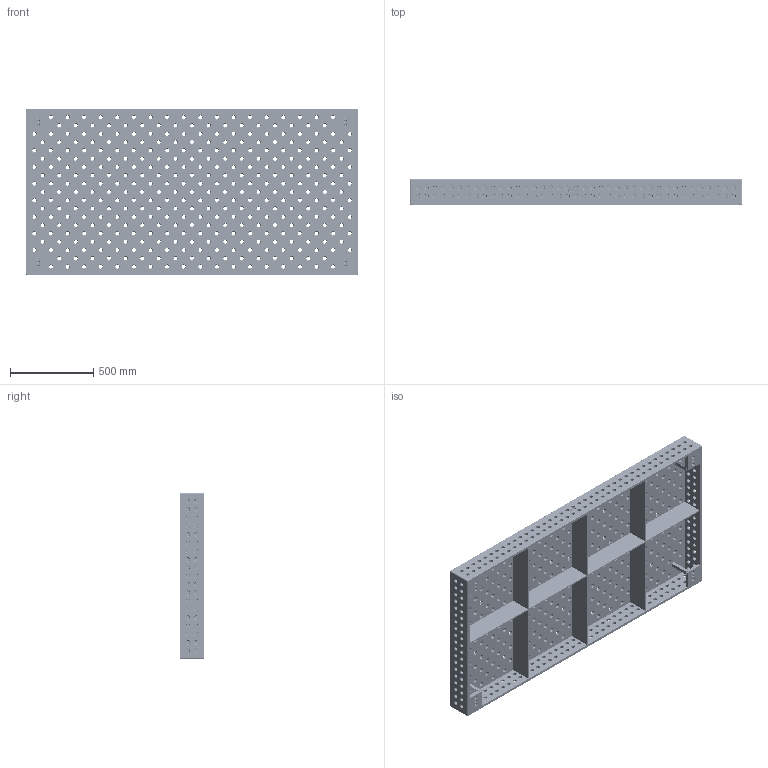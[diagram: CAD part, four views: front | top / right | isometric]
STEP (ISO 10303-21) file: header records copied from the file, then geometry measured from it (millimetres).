
FILE_DESCRIPTION (( 'STEP AP203' ), '1' );
FILE_NAME ('220020.D.STEP', '2020-03-03T07:28:31', ( '' ), ( '' ), 'SwSTEP 2.0', 'SolidWorks 2019', '' );
FILE_SCHEMA (( 'CONFIG_CONTROL_DESIGN' ));
Products named in the file (1): 220020.D
Bounding box: 2000 x 150 x 1000 mm (x, y, z)
Volume: 51339196.1 mm3; surface area: 7188147.2 mm2
Topology: 1 solids, 1 shells, 3799 faces, 8910 edges, 5112 vertices
Faces by surface type: cone 1258, cylinder 1246, torus 1210, plane 77, bspline 8
Entity records: 112887 total; most frequent: DIRECTION 22648, CARTESIAN_POINT 19062, ORIENTED_EDGE 17820, AXIS2_PLACEMENT_3D 9962, EDGE_CURVE 8910, CIRCLE 6170, VERTEX_POINT 5112, EDGE_LOOP 5036
